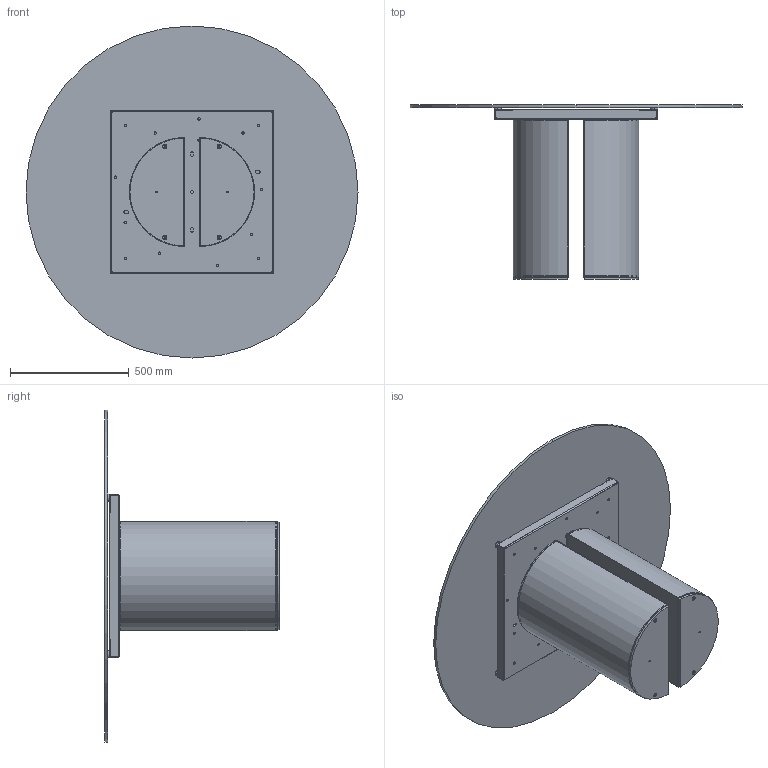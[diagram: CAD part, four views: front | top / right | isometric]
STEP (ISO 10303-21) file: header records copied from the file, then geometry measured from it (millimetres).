
FILE_DESCRIPTION (( 'STEP AP203' ), '1' );
FILE_NAME ('DR06G.STEP', '2024-08-06T12:59:32', ( '' ), ( '' ), 'SwSTEP 2.0', 'SolidWorks 2022', '' );
FILE_SCHEMA (( 'CONFIG_CONTROL_DESIGN' ));
Length unit declared in the file: millimetre
Products named in the file (12): PLA000000BAS-00-PLAI BASE GREZZA; TTAV0801-02-TELAIO UNIVERSALE TONDO-VASSOIO; PLA000000ZOC-01-PLAI ZOCCOLO DELLA BASE; COLLO TELAIO UNIVERSALE TTAV0801 CON FERRAMENTA_MTG TOP CRISTALLO VERNICIATO-CERAMICA; M8xXXmm_hex_M8X20mm; M8xXXmm_hex_M8X60mm; Assieme Basamento PLAI_Basamento per tavoli; 434070-00-PIEDINO TPV GOMMA NERO D. 30x8max18_filo estetico; TTAV0801 TELAIO UNIVERSALE TONDO-PIASTRINA; DR06G; TTAV0801-02-TELAIO UNIVERSALE TONDO; C1XCRMXX-00-piani Rotondi Cristallo_C06 D.140cm
Assembly tree (18 placements, depth 4):
  DR06G
    Assieme Basamento PLAI_Basamento per tavoli  x2
      PLA000000BAS-00-PLAI BASE GREZZA
      PLA000000ZOC-01-PLAI ZOCCOLO DELLA BASE
      M8xXXmm_hex_M8X60mm
      M8xXXmm_hex_M8X20mm
    COLLO TELAIO UNIVERSALE TTAV0801 CON FERRAMENTA_MTG TOP CRISTALLO VERNICIATO-CERAMICA
      TTAV0801-02-TELAIO UNIVERSALE TONDO
        TTAV0801-02-TELAIO UNIVERSALE TONDO-VASSOIO
        TTAV0801 TELAIO UNIVERSALE TONDO-PIASTRINA  x4
      434070-00-PIEDINO TPV GOMMA NERO D. 30x8max18_filo estetico  x4
    C1XCRMXX-00-piani Rotondi Cristallo_C06 D.140cm
Bounding box: 1400 x 736 x 1400 mm (x, y, z)
Volume: 26338006.1 mm3; surface area: 8184156.6 mm2
Topology: 28 solids, 28 shells, 706 faces, 1778 edges, 1124 vertices
Faces by surface type: plane 358, cylinder 288, cone 36, torus 24
Entity records: 14853 total; most frequent: DIRECTION 2427, CARTESIAN_POINT 2288, ORIENTED_EDGE 2238, EDGE_CURVE 1119, AXIS2_PLACEMENT_3D 853, LINE 721, VECTOR 721, VERTEX_POINT 714
